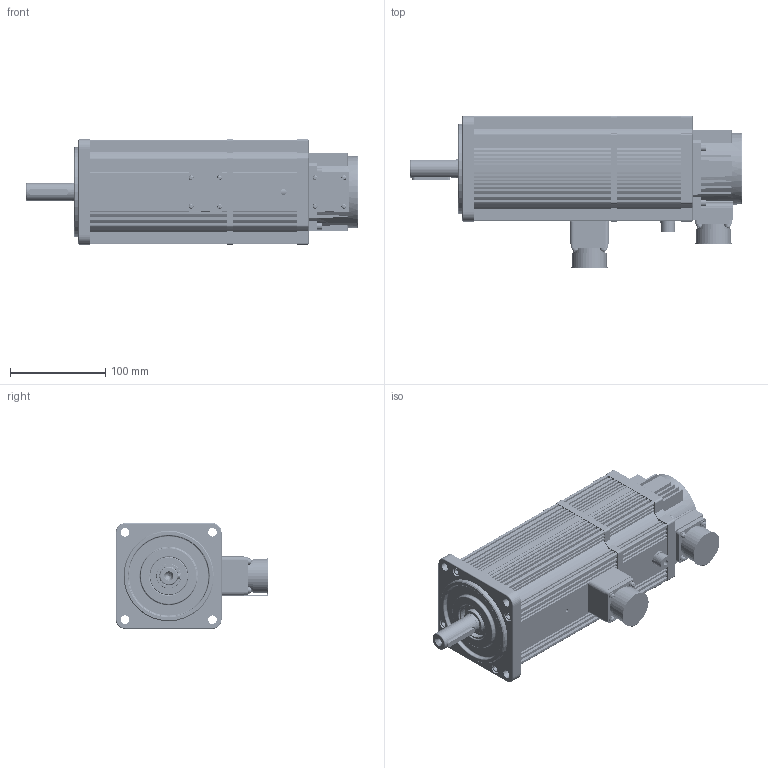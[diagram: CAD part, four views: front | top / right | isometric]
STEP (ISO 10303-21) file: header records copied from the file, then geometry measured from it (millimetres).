
FILE_DESCRIPTION (( 'STEP AP203' ), '1' );
FILE_NAME ('K1-110蚾饜 惕掅 1800W.STEP', '2019-12-23T05:57:01', ( 'gs' ), ( 'Microsoft' ), 'SwSTEP 2.0', 'SolidWorks 2019', '' );
FILE_SCHEMA (( 'CONFIG_CONTROL_DESIGN' ));
Length unit declared in the file: millimetre
Products named in the file (28): K1-130す瑩; K1-110綴傷裔 惕掅; K1-110晤鎢ん誘欶; K1-130諉盄釱; K1-110 O型密封圈变形后; K1-110儂褲樓馱綴 惕掅; K1-110密封圈; M4X12; K1-130誘欶躇猾菜; K1-130瑤脣 惕掅(10Nm眕奻); M5粟菜; M3す菜; K3-130疏菜; K1-110儂褲樓馱綴1800W; K1-110蚾饜 惕掅 1800W; M5X20; curved single coil spring lock washers gb_GB_FASTENER_WASHER_CSLW 4; K1-130瑤脣雄薯盄; K1-110隅赽郪璃1800W; K1-130瑤脣15郋; M3X12啋儂; K1-110粣 惕掅(1800W); K1-110ヶ傷裔 譙跡; K1-130瑤脣砎蝶菜; M3X8啋儂; K1-110蛌赽郪璃 惕掅1800W; K1-110綴傷裔 譙跡; K1-130盄簽砎蝶菜
Assembly tree (78 placements, depth 3):
  K1-110蚾饜 惕掅 1800W
    K1-110隅赽郪璃1800W
      K1-110儂褲樓馱綴1800W
    K1-110ヶ傷裔 譙跡
    K1-110綴傷裔 譙跡
    K1-110晤鎢ん誘欶
    K1-110密封圈
    M5粟菜  x8
    M5X20  x8
    K1-130瑤脣15郋
    K1-130瑤脣砎蝶菜
    K1-130盄簽砎蝶菜  x2
    K1-130諉盄釱
    M4X12  x4
    M3す菜  x12
    curved single coil spring lock washers gb_GB_FASTENER_WASHER_CSLW 4  x12
    M3X12啋儂  x8
    M3X8啋儂  x4
    K1-130す瑩
    K1-110 O型密封圈变形后  x2
    K1-130誘欶躇猾菜
    K3-130疏菜
    K1-130瑤脣雄薯盄
    K1-110蛌赽郪璃 惕掅1800W
      K1-110粣 惕掅(1800W)
    K1-110綴傷裔 惕掅
    K1-110儂褲樓馱綴 惕掅
    K1-130瑤脣 惕掅(10Nm眕奻)
Bounding box: 349 x 160.2 x 111.2 mm (x, y, z)
Volume: 1041221.9 mm3; surface area: 542309.1 mm2
Topology: 79 solids, 81 shells, 4093 faces, 11071 edges, 7283 vertices
Faces by surface type: cylinder 2384, plane 1369, bspline 164, cone 104, torus 72
Entity records: 145408 total; most frequent: CARTESIAN_POINT 79299, ORIENTED_EDGE 14054, DIRECTION 11820, EDGE_CURVE 7027, VERTEX_POINT 4619, AXIS2_PLACEMENT_3D 4075, LINE 3670, VECTOR 3670
